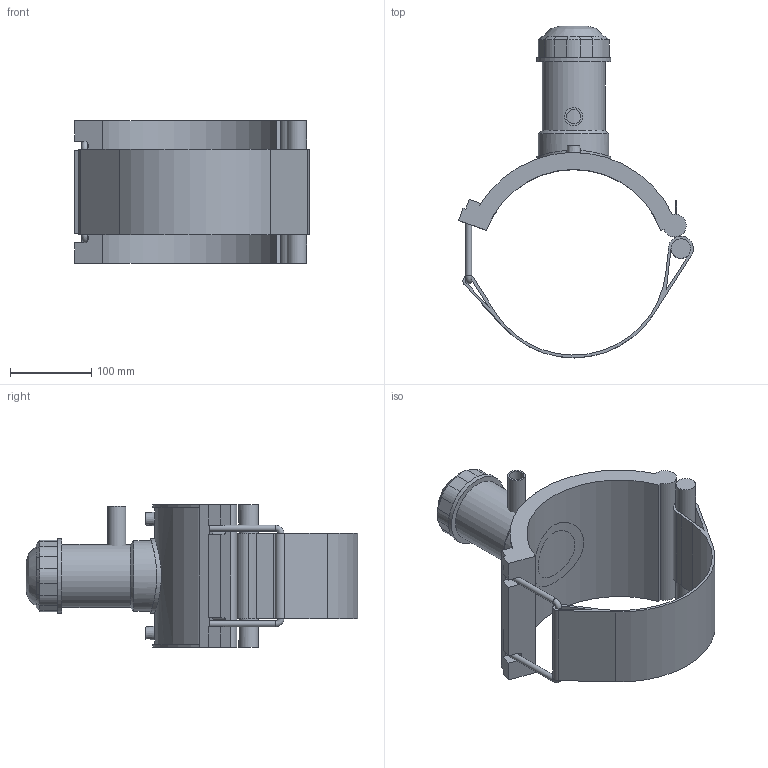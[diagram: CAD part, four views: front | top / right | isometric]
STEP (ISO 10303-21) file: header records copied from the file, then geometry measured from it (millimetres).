
FILE_DESCRIPTION(/* description */ ('PLASSON TAPPING SADDLE 8''''DIPS x 3/4''''CTS'),/* implementation_level */ '2;1');
FILE_NAME(/* name */ 'C:\Dropbox\KIMPROJECTS-Inventor 2019\99-16-3568-Processing Inch\ASTM ElectroFusion 2021\5963DBP_5963BUP\5963DUP3080007.ipt.stp',/* time_stamp */ '2021-08-30T09:59:07+03:00',/* author */ ('KIM'),/* organization */ (''),/* preprocessor_version */ 'ST-DEVELOPER v17.2',/* originating_system */ 'Autodesk Inventor 2019',/* authorisation */ '');
FILE_SCHEMA (('AUTOMOTIVE_DESIGN { 1 0 10303 214 3 1 1 }','INTEGRATED_CNC_SCHEMA'));
Length unit declared in the file: inch
Products named in the file (1): 5963DUP3080007
Bounding box: 289.75 x 409.37 x 176.02 mm (x, y, z)
Volume: 1976361.6 mm3; surface area: 373338.3 mm2
Topology: 3 solids, 3 shells, 125 faces, 315 edges, 206 vertices
Faces by surface type: plane 69, cylinder 40, cone 13, torus 2, bspline 1
Full cylindrical faces by diameter (mm): 4 x2, 7.325 x2, 10 x2, 17.68 x1, 22.1 x1, 24.123 x1, 64.092 x1, 77.826 x1, 86.982 x1, 91.56 x2
Entity records: 4185 total; most frequent: CARTESIAN_POINT 1043, DIRECTION 661, ORIENTED_EDGE 632, EDGE_CURVE 316, AXIS2_PLACEMENT_3D 240, VERTEX_POINT 206, LINE 181, VECTOR 181
